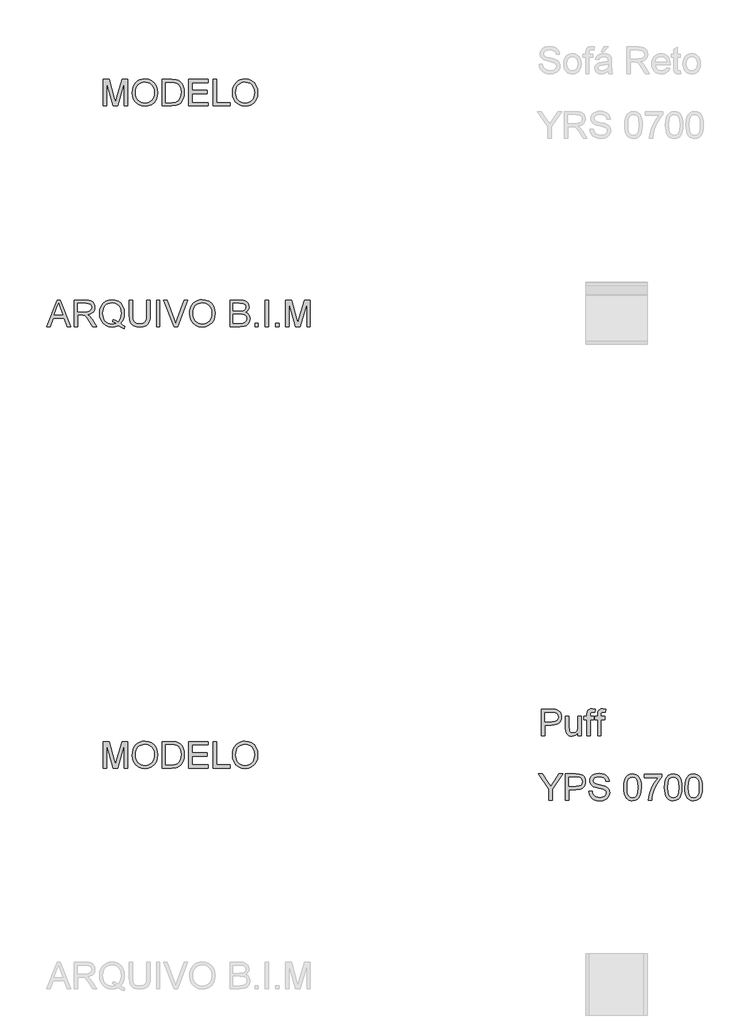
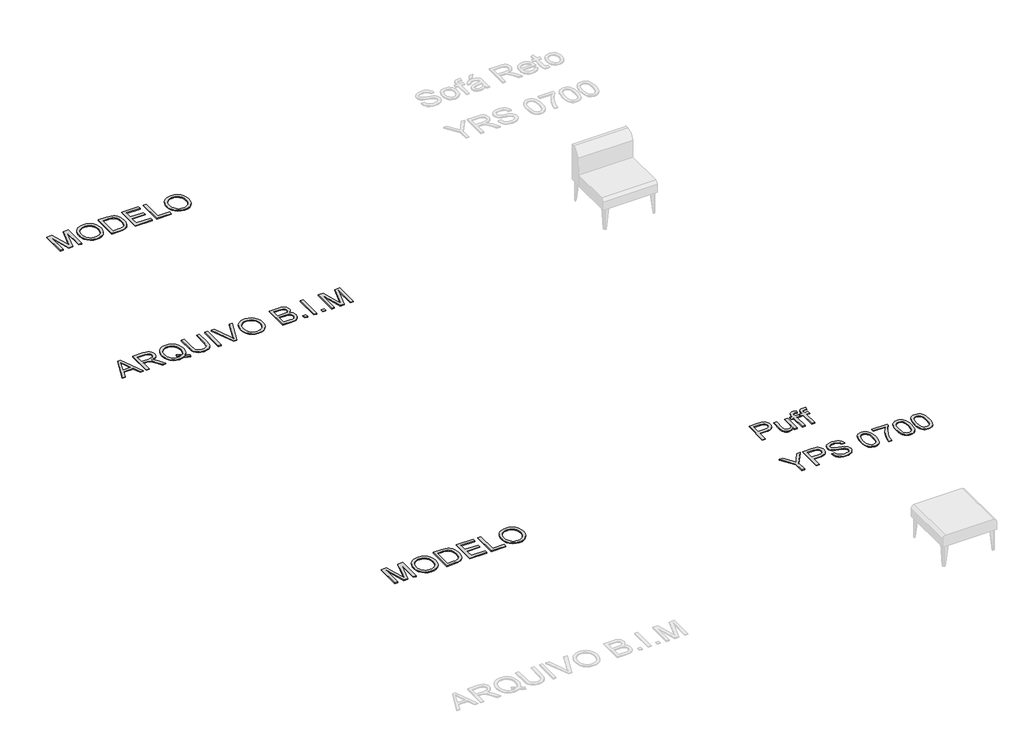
# One storey, part 8 of 26: 4 proxies.
"""IFC4 building model written with IfcOpenShell, lengths in millimetres."""

from ifc_helpers import new_model, si_unit, origin, origin_with_axes, place, context, project, spatial, polyline, outline, extrude, element, save

model = new_model("IFC4")

# Units and contexts
model_context = context("Model", 3, world=origin())
ifc_project = project(units=[si_unit("LENGTHUNIT", "METRE", prefix="MILLI")], contexts=[model_context])

# Site, building, storey
site = spatial("IfcSite", under=ifc_project)
building = spatial("IfcBuilding", under=site)
storey = spatial("IfcBuildingStorey", under=building, Name="Marelli - Linha YOUNG - Planta Baixa", Elevation=0.0)

# Proxies
placement = place(None, origin())
element("IfcBuildingElementProxy", 1, Name="300mm Arial", ObjectType="300mm Arial", at=placement, inside=storey, context=model_context, shape_type="SweptSolid", body=[
    extrude(outline(polyline([(-20609.419598, -2780.5663201), (-20489.1221856, -2479.1973896), (-20457.0428756, -2479.1973896), (-20336.7454632, -2780.5663201), (-20376.550295, -2780.5663201), (-20411.0576262, -2686.3885293), (-20535.1810114, -2686.3885293), (-20569.6147661, -2780.5663201), (-20609.419598, -2780.5663201)]), holes=[polyline([(-20521.3486483, -2648.717413), (-20424.8164128, -2648.717413), (-20451.9661041, -2574.6259792), (-20473.0825306, -2516.8685059), (-20491.8445123, -2568.1512561), (-20521.3486483, -2648.717413)])]), origin_with_axes(), (0.0, 0.0, 1.0), 10.0),
    extrude(outline(polyline([(-20296.4991729, -2780.5663201), (-20296.4991729, -2479.1973896), (-20166.6368286, -2479.1973896), (-20131.7340243, -2481.2299376), (-20106.3409696, -2487.3275817), (-20087.7813229, -2498.5847708), (-20073.3787428, -2516.0959537), (-20064.1357077, -2537.8101885), (-20061.054696, -2561.6765329), (-20066.1590587, -2591.3646099), (-20081.4721467, -2615.9759154), (-20093.0719259, -2626.0052983), (-20107.4538126, -2634.0205273), (-20144.5639089, -2644.0085235), (-20123.1531768, -2660.1217548), (-20092.6189712, -2698.8965171), (-20042.3662906, -2780.5663201), (-20086.144248, -2780.5663201), (-20125.3604687, -2718.0999573), (-20153.6873824, -2676.750021), (-20173.5897983, -2657.2154871), (-20191.5056515, -2650.0417882), (-20213.357842, -2648.717413), (-20258.8280566, -2648.717413), (-20258.8280566, -2780.5663201), (-20296.4991729, -2780.5663201)]), holes=[polyline([(-20258.8280566, -2611.0462967), (-20174.5095033, -2611.0462967), (-20150.293671, -2609.7127245), (-20131.5040981, -2605.7120078), (-20117.3590353, -2598.7774322), (-20107.0767336, -2588.6422832), (-20100.8135426, -2576.3826157), (-20098.7258123, -2563.0744845), (-20102.7081349, -2544.6987789), (-20114.6551027, -2529.8915286), (-20135.2105092, -2520.1242616), (-20165.0181478, -2516.8685059), (-20258.8280566, -2516.8685059), (-20258.8280566, -2611.0462967)])]), origin_with_axes(), (0.0, 0.0, 1.0), 10.0),
    extrude(outline(polyline([(-19768.7356626, -2744.4403081), (-19744.4002686, -2763.036743), (-19722.0146492, -2775.8574305), (-19732.1681923, -2803.4485802), (-19763.2358268, -2789.0460001), (-19794.1930967, -2768.205485), (-19829.0499157, -2781.0077785), (-19867.4016137, -2785.2752096), (-19905.9372527, -2780.3547879), (-19940.7572836, -2765.5935229), (-19969.9211287, -2741.9203165), (-19991.4882107, -2710.2640708), (-20004.814736, -2672.3630282), (-20009.2569111, -2629.9554312), (-20004.823933, -2587.511046), (-19991.5249989, -2549.0581805), (-19970.0406904, -2516.9512794), (-19941.0515892, -2493.5447874), (-19906.360317, -2479.2525719), (-19867.7694957, -2474.4885001), (-19828.8751718, -2479.3629365), (-19794.0091557, -2493.9862458), (-19765.0660397, -2517.3835407), (-19743.9404161, -2548.5799339), (-19731.0277581, -2585.9199564), (-19726.7235388, -2627.7481393), (-19729.3355009, -2662.5313819), (-19737.1713874, -2693.5990164), (-19750.2863806, -2720.9142546), (-19768.7356626, -2744.4403081)]), holes=[polyline([(-19857.0273415, -2694.3347804), (-19825.3527017, -2706.3093393), (-19799.784903, -2722.9559996), (-19784.3016695, -2705.4816049), (-19773.2422171, -2684.1076609), (-19766.6065456, -2658.8341679), (-19764.3946551, -2629.6611256), (-19767.521652, -2596.5057608), (-19776.9026429, -2567.8201623), (-19792.3077015, -2544.3308969), (-19813.5069014, -2526.7645316), (-19839.065503, -2515.8108452), (-19867.5487665, -2512.1596164), (-19889.033075, -2514.0059242), (-19908.6043972, -2519.5448474), (-19926.2627329, -2528.7763863), (-19942.0080823, -2541.7005406), (-19954.9483315, -2558.2897193), (-19964.1913666, -2578.5163313), (-19969.7371877, -2602.3803764), (-19971.5857948, -2629.8818548), (-19969.7578811, -2656.6659634), (-19964.2741401, -2680.1437324), (-19955.1345718, -2700.3151621), (-19942.3391761, -2717.1802523), (-19926.7018921, -2730.4906827), (-19909.0366585, -2739.998133), (-19889.3434755, -2745.7026032), (-19867.6223429, -2747.6040933), (-19846.7082515, -2745.6727128), (-19827.081747, -2739.8785714), (-19846.3771577, -2729.853787), (-19866.7394261, -2723.1767288), (-19857.0273415, -2694.3347804)])]), origin_with_axes(), (0.0, 0.0, 1.0), 10.0),
    extrude(outline(polyline([(-19472.4435037, -2479.1973896), (-19434.7723874, -2479.1973896), (-19434.7723874, -2653.0584205), (-19437.3291673, -2693.7737604), (-19444.9995069, -2725.1265034), (-19459.3285106, -2749.3147446), (-19481.8612828, -2768.5365788), (-19512.6530058, -2781.0905519), (-19551.7588619, -2785.2752096), (-19590.0093923, -2781.6331779), (-19620.5895832, -2770.7070826), (-19643.5086315, -2752.8740029), (-19658.7757343, -2728.5110178), (-19667.3565818, -2695.8338995), (-19670.2168643, -2653.0584205), (-19670.2168643, -2479.1973896), (-19632.545748, -2479.1973896), (-19632.545748, -2651.7340454), (-19630.6879439, -2685.588386), (-19625.1145317, -2709.1604248), (-19615.0161709, -2725.4851883), (-19599.5835212, -2737.597703), (-19579.4603761, -2745.1024957), (-19555.290529, -2747.6040933), (-19516.9756192, -2742.6560805), (-19502.6328199, -2736.4710644), (-19491.499791, -2727.812042), (-19483.1626653, -2715.6351479), (-19477.2075755, -2698.8965171), (-19472.4435037, -2651.7340454), (-19472.4435037, -2479.1973896)])), origin_with_axes(), (0.0, 0.0, 1.0), 10.0),
    extrude(outline(polyline([(-19364.1390443, -2780.5663201), (-19364.1390443, -2479.1973896), (-19326.467928, -2479.1973896), (-19326.467928, -2780.5663201), (-19364.1390443, -2780.5663201)])), origin_with_axes(), (0.0, 0.0, 1.0), 10.0),
    extrude(outline(polyline([(-19162.0982526, -2780.5663201), (-19282.027783, -2479.1973896), (-19241.7079163, -2479.1973896), (-19161.436065, -2696.3213432), (-19145.1756808, -2745.2496485), (-19129.1360258, -2696.3213432), (-19048.6434453, -2479.1973896), (-19008.3235786, -2479.1973896), (-19123.1763375, -2780.5663201), (-19162.0982526, -2780.5663201)])), origin_with_axes(), (0.0, 0.0, 1.0), 10.0),
    extrude(outline(polyline([(-18987.4278813, -2633.8549804), (-18984.9170866, -2598.5061192), (-18977.3847028, -2567.213157), (-18964.8307297, -2539.9760937), (-18947.2551674, -2516.7949295), (-18925.711078, -2498.2858666), (-18901.2515239, -2485.0651074), (-18873.8765049, -2477.1326519), (-18843.5860211, -2474.4885001), (-18804.0571008, -2479.454907), (-18768.6116705, -2494.3541278), (-18739.1811109, -2518.1376988), (-18717.6968024, -2549.7571563), (-18704.5634152, -2587.68579), (-18700.1856194, -2630.3968896), (-18704.7933414, -2673.6782064), (-18718.6165074, -2712.140269), (-18740.8917622, -2743.8149087), (-18770.8557507, -2766.733957), (-18805.9976783, -2780.6398965), (-18843.8067503, -2785.2752096), (-18883.942676, -2780.1524528), (-18919.5904413, -2764.7841825), (-18948.9474246, -2740.5591531), (-18970.2110039, -2708.8661192), (-18983.1236619, -2672.3998164), (-18987.4278813, -2633.8549804)]), holes=[polyline([(-18949.7567649, -2634.2228624), (-18947.873669, -2659.1974513), (-18942.2243811, -2681.3669401), (-18932.8089013, -2700.7313286), (-18919.6272295, -2717.2906169), (-18903.6036694, -2730.5527628), (-18885.6625243, -2740.0257242), (-18865.8037944, -2745.709501), (-18844.0274795, -2747.6040933), (-18821.8786842, -2745.6911069), (-18801.7854294, -2739.9521478), (-18783.7477154, -2730.3872159), (-18767.7655419, -2716.9963113), (-18754.6804392, -2700.0875351), (-18745.3339373, -2679.9689885), (-18739.7260361, -2656.6406715), (-18737.8567357, -2630.102584), (-18741.0573091, -2596.7540812), (-18750.6590292, -2567.9305269), (-18766.4135756, -2544.358488), (-18788.0726281, -2526.7645316), (-18814.2014468, -2515.8108452), (-18843.3652919, -2512.1596164), (-18864.3851494, -2513.9185522), (-18883.8874937, -2519.1953595), (-18901.8723248, -2527.9900385), (-18918.3396426, -2540.302589), (-18932.0846336, -2556.7262208), (-18941.9024844, -2577.8541437), (-18947.7931948, -2603.6863575), (-18949.7567649, -2634.2228624)])]), origin_with_axes(), (0.0, 0.0, 1.0), 10.0),
    extrude(outline(polyline([(-18530.665596, -2780.5663201), (-18530.665596, -2479.1973896), (-18415.6656844, -2479.1973896), (-18384.0370298, -2481.4138786), (-18359.3429509, -2488.0633457), (-18340.4154222, -2499.3113377), (-18326.0864185, -2515.3234015), (-18317.0641126, -2534.1589597), (-18314.0566773, -2553.8774346), (-18316.585866, -2572.0232141), (-18324.1734321, -2589.0837416), (-18336.874558, -2604.0105535), (-18354.7444259, -2615.7551862), (-18333.3980732, -2626.9020107), (-18317.6251326, -2643.8613707), (-18307.8854568, -2665.5112261), (-18304.6388982, -2690.7295368), (-18306.8553872, -2711.7447958), (-18313.5048543, -2731.2333445), (-18323.4284711, -2747.8064284), (-18335.4674094, -2760.0752929), (-18350.2102804, -2768.9596431), (-18368.2456952, -2775.3791839), (-18416.5486011, -2780.5663201), (-18530.665596, -2780.5663201)]), holes=[polyline([(-18492.9944797, -2601.6285176), (-18424.2005466, -2601.6285176), (-18384.0278328, -2598.3911561), (-18369.9655435, -2592.8085468), (-18359.8579857, -2584.4484284), (-18353.7603416, -2573.4395597), (-18351.7277936, -2559.9106994), (-18353.6223859, -2546.7773121), (-18359.3061627, -2535.3361821), (-18368.5216067, -2526.4058467), (-18381.0112004, -2520.8048433), (-18429.424471, -2516.8685059), (-18492.9944797, -2516.8685059), (-18492.9944797, -2601.6285176)]), polyline([(-18492.9944797, -2742.8952038), (-18415.7392607, -2742.8952038), (-18387.7802291, -2741.4236758), (-18364.1254168, -2733.2199073), (-18348.4536438, -2716.4812765), (-18343.8459218, -2704.6538704), (-18342.3100145, -2691.0974188), (-18344.1126363, -2675.3520694), (-18349.5205016, -2661.814012), (-18358.9658718, -2651.2282076), (-18372.8810083, -2644.3396173), (-18392.5902862, -2640.5596298), (-18419.4180807, -2639.2996339), (-18492.9944797, -2639.2996339), (-18492.9944797, -2742.8952038)])]), origin_with_axes(), (0.0, 0.0, 1.0), 10.0),
    extrude(outline(polyline([(-18248.1322237, -2780.5663201), (-18248.1322237, -2742.8952038), (-18210.4611074, -2742.8952038), (-18210.4611074, -2780.5663201), (-18248.1322237, -2780.5663201)])), origin_with_axes(), (0.0, 0.0, 1.0), 10.0),
    extrude(outline(polyline([(-18130.4099853, -2780.5663201), (-18130.4099853, -2479.1973896), (-18092.738869, -2479.1973896), (-18092.738869, -2780.5663201), (-18130.4099853, -2780.5663201)])), origin_with_axes(), (0.0, 0.0, 1.0), 10.0),
    extrude(outline(polyline([(-18012.6877468, -2780.5663201), (-18012.6877468, -2742.8952038), (-17975.0166305, -2742.8952038), (-17975.0166305, -2780.5663201), (-18012.6877468, -2780.5663201)])), origin_with_axes(), (0.0, 0.0, 1.0), 10.0),
    extrude(outline(polyline([(-17899.6743979, -2780.5663201), (-17899.6743979, -2479.1973896), (-17834.8535904, -2479.1973896), (-17773.196568, -2691.6124536), (-17760.7621565, -2735.9790223), (-17747.2976755, -2687.9336337), (-17686.6707227, -2479.1973896), (-17621.8499152, -2479.1973896), (-17621.8499152, -2780.5663201), (-17659.5210315, -2780.5663201), (-17659.5210315, -2516.8685059), (-17735.2311461, -2780.5663201), (-17786.293167, -2780.5663201), (-17862.0032816, -2516.8685059), (-17862.0032816, -2780.5663201), (-17899.6743979, -2780.5663201)])), origin_with_axes(), (0.0, 0.0, 1.0), 10.0),
])
element("IfcBuildingElementProxy", 2, Name="300mm Arial", ObjectType="300mm Arial", at=placement, inside=storey, context=model_context, shape_type="SweptSolid", body=[
    extrude(outline(polyline([(-19966.8769052, -280.5663201), (-19966.8769052, 20.8026104), (-19902.0560977, 20.8026104), (-19840.3990753, -191.6124536), (-19827.9646638, -235.9790223), (-19814.5001828, -187.9336337), (-19753.87323, 20.8026104), (-19689.0524225, 20.8026104), (-19689.0524225, -280.5663201), (-19726.7235388, -280.5663201), (-19726.7235388, -16.8685059), (-19802.4336534, -280.5663201), (-19853.4956743, -280.5663201), (-19929.2057889, -16.8685059), (-19929.2057889, -280.5663201), (-19966.8769052, -280.5663201)])), origin_with_axes(), (0.0, 0.0, 1.0), 10.0),
    extrude(outline(polyline([(-19637.2546375, -133.8549804), (-19634.7438429, -98.5061192), (-19627.2114591, -67.213157), (-19614.657486, -39.9760937), (-19597.0819237, -16.7949295), (-19575.5378343, 1.7141334), (-19551.0782802, 14.9348926), (-19523.7032612, 22.8673481), (-19493.4127774, 25.5114999), (-19453.883857, 20.545093), (-19418.4384268, 5.6458722), (-19389.0078672, -18.1376988), (-19367.5235587, -49.7571563), (-19354.3901714, -87.68579), (-19350.0123757, -130.3968896), (-19354.6200977, -173.6782064), (-19368.4432637, -212.140269), (-19390.7185185, -243.8149087), (-19420.682507, -266.733957), (-19455.8244346, -280.6398965), (-19493.6335066, -285.2752096), (-19533.7694323, -280.1524528), (-19569.4171976, -264.7841825), (-19598.7741808, -240.5591531), (-19620.0377602, -208.8661192), (-19632.9504182, -172.3998164), (-19637.2546375, -133.8549804)]), holes=[polyline([(-19599.5835212, -134.2228624), (-19597.7004253, -159.1974513), (-19592.0511374, -181.3669401), (-19582.6356576, -200.7313286), (-19569.4539858, -217.2906169), (-19553.4304257, -230.5527628), (-19535.4892806, -240.0257242), (-19515.6305507, -245.709501), (-19493.8542358, -247.6040933), (-19471.7054404, -245.6911069), (-19451.6121857, -239.9521478), (-19433.5744716, -230.3872159), (-19417.5922982, -216.9963113), (-19404.5071955, -200.0875351), (-19395.1606936, -179.9689885), (-19389.5527924, -156.6406715), (-19387.683492, -130.102584), (-19390.8840654, -96.7540812), (-19400.4857854, -67.9305269), (-19416.2403319, -44.358488), (-19437.8993843, -26.7645316), (-19464.0282031, -15.8108452), (-19493.1920482, -12.1596164), (-19514.2119057, -13.9185522), (-19533.71425, -19.1953595), (-19551.699081, -27.9900385), (-19568.1663988, -40.302589), (-19581.9113899, -56.7262208), (-19591.7292406, -77.8541437), (-19597.6199511, -103.6863575), (-19599.5835212, -134.2228624)])]), origin_with_axes(), (0.0, 0.0, 1.0), 10.0),
    extrude(outline(polyline([(-19298.2145908, -280.5663201), (-19298.2145908, 20.8026104), (-19194.2511389, 20.8026104), (-19140.4667912, 16.4616028), (-19116.444097, 8.0922874), (-19096.173799, -5.0962821), (-19075.333284, -28.0521186), (-19060.4892455, -56.5997614), (-19051.6048953, -90.1873876), (-19048.6434453, -128.2631741), (-19050.6484021, -160.6091985), (-19056.6632727, -189.0740679), (-19065.8235344, -213.3082943), (-19077.2646645, -232.9623899), (-19090.4348399, -248.477813), (-19104.7822377, -260.2960221), (-19121.254154, -269.0608107), (-19140.797885, -275.4159721), (-19189.2479438, -280.5663201), (-19298.2145908, -280.5663201)]), holes=[polyline([(-19260.5434745, -242.8952038), (-19193.8832569, -242.8952038), (-19166.3105014, -241.5340404), (-19145.39641, -237.4505502), (-19129.6142724, -230.8838566), (-19117.4373783, -222.0730828), (-19104.3499764, -205.7667134), (-19094.5183301, -184.6594839), (-19088.3655037, -158.6594239), (-19086.3145616, -127.6745629), (-19090.3336724, -86.6189322), (-19102.3910047, -56.3054558), (-19120.2056904, -35.4833349), (-19141.4968608, -22.9017706), (-19163.1651104, -18.3768221), (-19194.9133265, -16.8685059), (-19260.5434745, -16.8685059), (-19260.5434745, -242.8952038)])]), origin_with_axes(), (0.0, 0.0, 1.0), 10.0),
    extrude(outline(polyline([(-18996.8456603, -280.5663201), (-18996.8456603, 20.8026104), (-18780.2367416, 20.8026104), (-18780.2367416, -16.8685059), (-18959.174544, -16.8685059), (-18959.174544, -106.3374072), (-18789.6545206, -106.3374072), (-18789.6545206, -144.0085235), (-18959.174544, -144.0085235), (-18959.174544, -242.8952038), (-18775.527852, -242.8952038), (-18775.527852, -280.5663201), (-18996.8456603, -280.5663201)])), origin_with_axes(), (0.0, 0.0, 1.0), 10.0),
    extrude(outline(polyline([(-18719.0211776, -280.5663201), (-18719.0211776, 20.8026104), (-18681.3500613, 20.8026104), (-18681.3500613, -242.8952038), (-18530.665596, -242.8952038), (-18530.665596, -280.5663201), (-18719.0211776, -280.5663201)])), origin_with_axes(), (0.0, 0.0, 1.0), 10.0),
    extrude(outline(polyline([(-18502.4122588, -133.8549804), (-18499.9014642, -98.5061192), (-18492.3690803, -67.213157), (-18479.8151073, -39.9760937), (-18462.2395449, -16.7949295), (-18440.6954556, 1.7141334), (-18416.2359014, 14.9348926), (-18388.8608825, 22.8673481), (-18358.5703987, 25.5114999), (-18319.0414783, 20.545093), (-18283.5960481, 5.6458722), (-18254.1654885, -18.1376988), (-18232.6811799, -49.7571563), (-18219.5477927, -87.68579), (-18215.169997, -130.3968896), (-18219.777719, -173.6782064), (-18233.6008849, -212.140269), (-18255.8761397, -243.8149087), (-18285.8401283, -266.733957), (-18320.9820558, -280.6398965), (-18358.7911279, -285.2752096), (-18398.9270536, -280.1524528), (-18434.5748189, -264.7841825), (-18463.9318021, -240.5591531), (-18485.1953814, -208.8661192), (-18498.1080395, -172.3998164), (-18502.4122588, -133.8549804)]), holes=[polyline([(-18464.7411425, -134.2228624), (-18462.8580465, -159.1974513), (-18457.2087587, -181.3669401), (-18447.7932788, -200.7313286), (-18434.6116071, -217.2906169), (-18418.5880469, -230.5527628), (-18400.6469019, -240.0257242), (-18380.7881719, -245.709501), (-18359.0118571, -247.6040933), (-18336.8630617, -245.6911069), (-18316.769807, -239.9521478), (-18298.7320929, -230.3872159), (-18282.7499195, -216.9963113), (-18269.6648168, -200.0875351), (-18260.3183148, -179.9689885), (-18254.7104137, -156.6406715), (-18252.8411133, -130.102584), (-18256.0416866, -96.7540812), (-18265.6434067, -67.9305269), (-18281.3979532, -44.358488), (-18303.0570056, -26.7645316), (-18329.1858243, -15.8108452), (-18358.3496695, -12.1596164), (-18379.369527, -13.9185522), (-18398.8718713, -19.1953595), (-18416.8567023, -27.9900385), (-18433.3240201, -40.302589), (-18447.0690112, -56.7262208), (-18456.8868619, -77.8541437), (-18462.7775724, -103.6863575), (-18464.7411425, -134.2228624)])]), origin_with_axes(), (0.0, 0.0, 1.0), 10.0),
])
element("IfcBuildingElementProxy", 3, Name="300mm Arial", ObjectType="300mm Arial", at=placement, inside=storey, context=model_context, shape_type="SweptSolid", body=[
    extrude(outline(polyline([(-19966.8769052, -7780.5663201), (-19966.8769052, -7479.1973896), (-19902.0560977, -7479.1973896), (-19840.3990753, -7691.6124536), (-19827.9646638, -7735.9790223), (-19814.5001828, -7687.9336337), (-19753.87323, -7479.1973896), (-19689.0524225, -7479.1973896), (-19689.0524225, -7780.5663201), (-19726.7235388, -7780.5663201), (-19726.7235388, -7516.8685059), (-19802.4336534, -7780.5663201), (-19853.4956743, -7780.5663201), (-19929.2057889, -7516.8685059), (-19929.2057889, -7780.5663201), (-19966.8769052, -7780.5663201)])), origin_with_axes(), (0.0, 0.0, 1.0), 10.0),
    extrude(outline(polyline([(-19637.2546375, -7633.8549804), (-19634.7438429, -7598.5061192), (-19627.2114591, -7567.213157), (-19614.657486, -7539.9760937), (-19597.0819237, -7516.7949295), (-19575.5378343, -7498.2858666), (-19551.0782802, -7485.0651074), (-19523.7032612, -7477.1326519), (-19493.4127774, -7474.4885001), (-19453.883857, -7479.454907), (-19418.4384268, -7494.3541278), (-19389.0078672, -7518.1376988), (-19367.5235587, -7549.7571563), (-19354.3901714, -7587.68579), (-19350.0123757, -7630.3968896), (-19354.6200977, -7673.6782064), (-19368.4432637, -7712.140269), (-19390.7185185, -7743.8149087), (-19420.682507, -7766.733957), (-19455.8244346, -7780.6398965), (-19493.6335066, -7785.2752096), (-19533.7694323, -7780.1524528), (-19569.4171976, -7764.7841825), (-19598.7741808, -7740.5591531), (-19620.0377602, -7708.8661192), (-19632.9504182, -7672.3998164), (-19637.2546375, -7633.8549804)]), holes=[polyline([(-19599.5835212, -7634.2228624), (-19597.7004253, -7659.1974513), (-19592.0511374, -7681.3669401), (-19582.6356576, -7700.7313286), (-19569.4539858, -7717.2906169), (-19553.4304257, -7730.5527628), (-19535.4892806, -7740.0257242), (-19515.6305507, -7745.709501), (-19493.8542358, -7747.6040933), (-19471.7054404, -7745.6911069), (-19451.6121857, -7739.9521478), (-19433.5744716, -7730.3872159), (-19417.5922982, -7716.9963113), (-19404.5071955, -7700.0875351), (-19395.1606936, -7679.9689885), (-19389.5527924, -7656.6406715), (-19387.683492, -7630.102584), (-19390.8840654, -7596.7540812), (-19400.4857854, -7567.9305269), (-19416.2403319, -7544.358488), (-19437.8993843, -7526.7645316), (-19464.0282031, -7515.8108452), (-19493.1920482, -7512.1596164), (-19514.2119057, -7513.9185522), (-19533.71425, -7519.1953595), (-19551.699081, -7527.9900385), (-19568.1663988, -7540.302589), (-19581.9113899, -7556.7262208), (-19591.7292406, -7577.8541437), (-19597.6199511, -7603.6863575), (-19599.5835212, -7634.2228624)])]), origin_with_axes(), (0.0, 0.0, 1.0), 10.0),
    extrude(outline(polyline([(-19298.2145908, -7780.5663201), (-19298.2145908, -7479.1973896), (-19194.2511389, -7479.1973896), (-19140.4667912, -7483.5383972), (-19116.444097, -7491.9077126), (-19096.173799, -7505.0962821), (-19075.333284, -7528.0521186), (-19060.4892455, -7556.5997614), (-19051.6048953, -7590.1873876), (-19048.6434453, -7628.2631741), (-19050.6484021, -7660.6091985), (-19056.6632727, -7689.0740679), (-19065.8235344, -7713.3082943), (-19077.2646645, -7732.9623899), (-19090.4348399, -7748.477813), (-19104.7822377, -7760.2960221), (-19121.254154, -7769.0608107), (-19140.797885, -7775.4159721), (-19189.2479438, -7780.5663201), (-19298.2145908, -7780.5663201)]), holes=[polyline([(-19260.5434745, -7742.8952038), (-19193.8832569, -7742.8952038), (-19166.3105014, -7741.5340404), (-19145.39641, -7737.4505502), (-19129.6142724, -7730.8838566), (-19117.4373783, -7722.0730828), (-19104.3499764, -7705.7667134), (-19094.5183301, -7684.6594839), (-19088.3655037, -7658.6594239), (-19086.3145616, -7627.6745629), (-19090.3336724, -7586.6189322), (-19102.3910047, -7556.3054558), (-19120.2056904, -7535.4833349), (-19141.4968608, -7522.9017706), (-19163.1651104, -7518.3768221), (-19194.9133265, -7516.8685059), (-19260.5434745, -7516.8685059), (-19260.5434745, -7742.8952038)])]), origin_with_axes(), (0.0, 0.0, 1.0), 10.0),
    extrude(outline(polyline([(-18996.8456603, -7780.5663201), (-18996.8456603, -7479.1973896), (-18780.2367416, -7479.1973896), (-18780.2367416, -7516.8685059), (-18959.174544, -7516.8685059), (-18959.174544, -7606.3374072), (-18789.6545206, -7606.3374072), (-18789.6545206, -7644.0085235), (-18959.174544, -7644.0085235), (-18959.174544, -7742.8952038), (-18775.527852, -7742.8952038), (-18775.527852, -7780.5663201), (-18996.8456603, -7780.5663201)])), origin_with_axes(), (0.0, 0.0, 1.0), 10.0),
    extrude(outline(polyline([(-18719.0211776, -7780.5663201), (-18719.0211776, -7479.1973896), (-18681.3500613, -7479.1973896), (-18681.3500613, -7742.8952038), (-18530.665596, -7742.8952038), (-18530.665596, -7780.5663201), (-18719.0211776, -7780.5663201)])), origin_with_axes(), (0.0, 0.0, 1.0), 10.0),
    extrude(outline(polyline([(-18502.4122588, -7633.8549804), (-18499.9014642, -7598.5061192), (-18492.3690803, -7567.213157), (-18479.8151073, -7539.9760937), (-18462.2395449, -7516.7949295), (-18440.6954556, -7498.2858666), (-18416.2359014, -7485.0651074), (-18388.8608825, -7477.1326519), (-18358.5703987, -7474.4885001), (-18319.0414783, -7479.454907), (-18283.5960481, -7494.3541278), (-18254.1654885, -7518.1376988), (-18232.6811799, -7549.7571563), (-18219.5477927, -7587.68579), (-18215.169997, -7630.3968896), (-18219.777719, -7673.6782064), (-18233.6008849, -7712.140269), (-18255.8761397, -7743.8149087), (-18285.8401283, -7766.733957), (-18320.9820558, -7780.6398965), (-18358.7911279, -7785.2752096), (-18398.9270536, -7780.1524528), (-18434.5748189, -7764.7841825), (-18463.9318021, -7740.5591531), (-18485.1953814, -7708.8661192), (-18498.1080395, -7672.3998164), (-18502.4122588, -7633.8549804)]), holes=[polyline([(-18464.7411425, -7634.2228624), (-18462.8580465, -7659.1974513), (-18457.2087587, -7681.3669401), (-18447.7932788, -7700.7313286), (-18434.6116071, -7717.2906169), (-18418.5880469, -7730.5527628), (-18400.6469019, -7740.0257242), (-18380.7881719, -7745.709501), (-18359.0118571, -7747.6040933), (-18336.8630617, -7745.6911069), (-18316.769807, -7739.9521478), (-18298.7320929, -7730.3872159), (-18282.7499195, -7716.9963113), (-18269.6648168, -7700.0875351), (-18260.3183148, -7679.9689885), (-18254.7104137, -7656.6406715), (-18252.8411133, -7630.102584), (-18256.0416866, -7596.7540812), (-18265.6434067, -7567.9305269), (-18281.3979532, -7544.358488), (-18303.0570056, -7526.7645316), (-18329.1858243, -7515.8108452), (-18358.3496695, -7512.1596164), (-18379.369527, -7513.9185522), (-18398.8718713, -7519.1953595), (-18416.8567023, -7527.9900385), (-18433.3240201, -7540.302589), (-18447.0690112, -7556.7262208), (-18456.8868619, -7577.8541437), (-18462.7775724, -7603.6863575), (-18464.7411425, -7634.2228624)])]), origin_with_axes(), (0.0, 0.0, 1.0), 10.0),
])
element("IfcBuildingElementProxy", 4, Name="300mm Arial", ObjectType="300mm Arial", at=placement, inside=storey, context=model_context, shape_type="SweptSolid", body=[
    extrude(outline(polyline([(-14999.839132, -7414.6418665), (-14999.839132, -7113.2729361), (-14888.1501582, -7113.2729361), (-14843.121402, -7116.1424156), (-14823.0442421, -7121.5042957), (-14806.5171435, -7130.2322961), (-14793.2090123, -7142.7218898), (-14782.7887548, -7159.3685501), (-14776.0565143, -7179.0042516), (-14773.8124341, -7200.4609689), (-14775.3276481, -7218.9608348), (-14779.87329, -7235.9799756), (-14787.4493599, -7251.5183913), (-14798.0558576, -7265.5760821), (-14812.6170868, -7277.2287443), (-14832.057351, -7285.5520744), (-14856.3766502, -7290.5460725), (-14885.5749843, -7292.2107385), (-14962.1680157, -7292.2107385), (-14962.1680157, -7414.6418665), (-14999.839132, -7414.6418665)]), holes=[polyline([(-14962.1680157, -7254.5396222), (-14883.3676923, -7254.5396222), (-14849.9640071, -7251.0815315), (-14827.8910874, -7240.7072592), (-14815.5854347, -7224.0605989), (-14811.4835504, -7201.7853441), (-14813.9023746, -7184.8627723), (-14821.1588469, -7170.5889509), (-14832.3516566, -7159.8467967), (-14846.5794928, -7153.5192264), (-14884.2506091, -7150.9440524), (-14962.1680157, -7150.9440524), (-14962.1680157, -7254.5396222)])]), origin_with_axes(), (0.0, 0.0, 1.0), 10.0),
    extrude(outline(polyline([(-14585.4568526, -7414.6418665), (-14585.4568526, -7376.6028682), (-14599.0868805, -7395.3050692), (-14614.9609886, -7408.6637841), (-14633.0791769, -7416.6790131), (-14653.4414453, -7419.3507561), (-14671.7895598, -7417.4745579), (-14688.8684815, -7411.8459634), (-14703.1974852, -7403.3846775), (-14713.2958459, -7393.0104052), (-14724.5162468, -7365.2721028), (-14726.7235388, -7330.2497368), (-14726.7235388, -7193.3240582), (-14689.0524225, -7193.3240582), (-14689.0524225, -7312.5178247), (-14686.7715541, -7350.924705), (-14681.2809153, -7363.7361954), (-14671.8723333, -7373.4758713), (-14659.1712074, -7379.6286976), (-14643.802937, -7381.6796398), (-14627.5517499, -7379.5827124), (-14612.3490265, -7373.2919303), (-14599.8134475, -7363.3867076), (-14591.5636937, -7350.4464584), (-14586.9835629, -7332.7237433), (-14585.4568526, -7308.4711227), (-14585.4568526, -7193.3240582), (-14547.7857363, -7193.3240582), (-14547.7857363, -7414.6418665), (-14585.4568526, -7414.6418665)])), origin_with_axes(), (0.0, 0.0, 1.0), 10.0),
    extrude(outline(polyline([(-14364.1390443, -7414.6418665), (-14364.1390443, -7230.9951745), (-14397.1012711, -7230.9951745), (-14397.1012711, -7193.3240582), (-14364.1390443, -7193.3240582), (-14364.1390443, -7171.0304093), (-14360.1659188, -7139.6132869), (-14352.5875497, -7127.086905), (-14340.8889022, -7117.1724852), (-14324.5181534, -7110.7161562), (-14302.9234803, -7108.5640465), (-14268.563302, -7112.6843249), (-14274.0815319, -7148.0009964), (-14295.7865696, -7146.2351629), (-14310.1063763, -7147.7986613), (-14319.5149583, -7152.4891568), (-14324.7296856, -7161.4470834), (-14326.467928, -7175.8128753), (-14326.467928, -7193.3240582), (-14284.0879222, -7193.3240582), (-14284.0879222, -7230.9951745), (-14326.467928, -7230.9951745), (-14326.467928, -7414.6418665), (-14364.1390443, -7414.6418665)])), origin_with_axes(), (0.0, 0.0, 1.0), 10.0),
    extrude(outline(polyline([(-14486.5701723, -7414.6418665), (-14486.5701723, -7230.9951745), (-14519.5323991, -7230.9951745), (-14519.5323991, -7193.3240582), (-14486.5701723, -7193.3240582), (-14486.5701723, -7171.0304093), (-14482.5970468, -7139.6132869), (-14475.0186777, -7127.086905), (-14463.3200302, -7117.1724852), (-14446.9492814, -7110.7161562), (-14425.3546083, -7108.5640465), (-14390.99443, -7112.6843249), (-14396.5126599, -7148.0009964), (-14418.2176976, -7146.2351629), (-14432.5375043, -7147.7986613), (-14441.9460863, -7152.4891568), (-14447.1608136, -7161.4470834), (-14448.899056, -7175.8128753), (-14448.899056, -7193.3240582), (-14406.5190502, -7193.3240582), (-14406.5190502, -7230.9951745), (-14448.899056, -7230.9951745), (-14448.899056, -7414.6418665), (-14486.5701723, -7414.6418665)])), origin_with_axes(), (0.0, 0.0, 1.0), 10.0),
    extrude(outline(polyline([(-14915.0791203, -8146.4907736), (-14915.0791203, -8018.8357213), (-15032.8013587, -7845.1218432), (-14988.3612137, -7845.1218432), (-14925.526969, -7937.9016823), (-14893.3740826, -7985.2113069), (-14861.1476198, -7934.517168), (-14804.1259105, -7845.1218432), (-14759.6857655, -7845.1218432), (-14877.408004, -8018.8357213), (-14877.408004, -8146.4907736), (-14915.0791203, -8146.4907736)])), origin_with_axes(), (0.0, 0.0, 1.0), 10.0),
    extrude(outline(polyline([(-14726.7235388, -8146.4907736), (-14726.7235388, -7845.1218432), (-14615.034565, -7845.1218432), (-14570.0058088, -7847.9913227), (-14549.9286489, -7853.3532028), (-14533.4015503, -7862.0812031), (-14520.0934191, -7874.5707969), (-14509.6731616, -7891.2174572), (-14502.9409211, -7910.8531586), (-14500.6968409, -7932.309876), (-14502.2120549, -7950.8097418), (-14506.7576968, -7967.8288826), (-14514.3337666, -7983.3672984), (-14524.9402644, -7997.4249892), (-14539.5014936, -8009.0776514), (-14558.9417578, -8017.4009815), (-14583.261057, -8022.3949796), (-14612.4593911, -8024.0596456), (-14689.0524225, -8024.0596456), (-14689.0524225, -8146.4907736), (-14726.7235388, -8146.4907736)]), holes=[polyline([(-14689.0524225, -7986.3885293), (-14610.2520991, -7986.3885293), (-14576.8484139, -7982.9304385), (-14554.7754942, -7972.5561663), (-14542.4698415, -7955.909506), (-14538.3679572, -7933.6342512), (-14540.7867813, -7916.7116794), (-14548.0432537, -7902.437858), (-14559.2360634, -7891.6957037), (-14573.4638996, -7885.3681334), (-14611.1350159, -7882.7929595), (-14689.0524225, -7882.7929595), (-14689.0524225, -7986.3885293)])]), origin_with_axes(), (0.0, 0.0, 1.0), 10.0),
    extrude(outline(polyline([(-14463.0257246, -8042.8952038), (-14425.3546083, -8042.8952038), (-14421.0319949, -8063.8000981), (-14413.2145025, -8080.6031083), (-14401.0192143, -8093.9388306), (-14383.5632137, -8104.4418616), (-14362.2260579, -8111.2568755), (-14338.3873047, -8113.5285468), (-14317.3996368, -8111.8086985), (-14299.0239312, -8106.6491535), (-14284.1339074, -8098.4821732), (-14273.6032853, -8087.740019), (-14267.3400943, -8075.4067751), (-14265.252364, -8062.4665259), (-14266.8158625, -8049.8573705), (-14271.5063579, -8038.9588664), (-14281.0345016, -8029.660649), (-14297.1109448, -8021.8523536), (-14351.9621503, -8007.4681676), (-14387.9686006, -7997.949221), (-14411.0072105, -7988.8901269), (-14429.7599952, -7976.2165921), (-14443.0497323, -7960.8575188), (-14450.9683922, -7943.1440008), (-14453.6079455, -7923.4071317), (-14450.3429928, -7901.3434091), (-14440.5481347, -7880.7696085), (-14424.4808886, -7863.3320019), (-14402.3987718, -7850.6768613), (-14375.8928741, -7842.9789305), (-14346.5542849, -7840.4129536), (-14314.7692806, -7843.0984922), (-14286.9574017, -7851.1551079), (-14264.1119298, -7864.4172538), (-14247.2261462, -7882.7193831), (-14236.5391743, -7904.9210615), (-14232.2901372, -7929.8818548), (-14269.9612535, -7929.8818548), (-14276.8774351, -7907.4042649), (-14291.2984093, -7891.180669), (-14313.8311815, -7881.3582197), (-14345.082757, -7878.0840699), (-14377.0700964, -7881.3214315), (-14399.0142575, -7891.0335162), (-14411.7061863, -7905.3257317), (-14415.9368292, -7922.3034857), (-14412.938591, -7936.7796423), (-14403.9438762, -7948.4231074), (-14382.6802969, -7958.8341679), (-14342.4340066, -7969.4659575), (-14300.9001293, -7979.5643183), (-14275.7737891, -7988.3750921), (-14254.2986776, -8002.0419082), (-14239.3166834, -8018.9092977), (-14230.5151066, -8038.7933195), (-14227.5812477, -8061.5100327), (-14230.956565, -8084.7325837), (-14241.0825169, -8106.5755771), (-14257.5452362, -8125.3743471), (-14279.9308556, -8139.4642275), (-14306.8506206, -8148.2658042), (-14336.9157767, -8151.1996631), (-14373.8235378, -8148.035878), (-14404.2013936, -8138.5445225), (-14428.3988318, -8122.6888085), (-14446.7653404, -8100.4319478), (-14458.5559584, -8073.3190448), (-14463.0257246, -8042.8952038)])), origin_with_axes(), (0.0, 0.0, 1.0), 10.0),
    extrude(outline(polyline([(-14067.4790034, -7998.2343295), (-14064.7106914, -7949.9958029), (-14056.4057553, -7911.5245433), (-14042.6469687, -7882.2319394), (-14023.517105, -7861.5293801), (-13998.8782084, -7849.2237274), (-13968.5923231, -7845.1218432), (-13945.3789692, -7847.5498643), (-13924.5936365, -7854.8339278), (-13907.2112122, -7866.6889251), (-13894.2065837, -7882.8297477), (-13884.3841344, -7903.1184397), (-13876.5482479, -7927.4170455), (-13871.4162941, -7958.2731478), (-13869.7056428, -7998.2343295), (-13872.4463637, -8046.1969447), (-13880.6685263, -8084.5762338), (-13894.3445394, -8113.8964288), (-13913.446812, -8134.6817616), (-13938.140891, -8147.0701877), (-13968.5923231, -8151.1996631), (-13989.3408676, -8149.4062384), (-14007.7349674, -8144.0259642), (-14023.7746224, -8135.0588406), (-14037.4598326, -8122.5048675), (-14050.5932198, -8099.8111469), (-14059.9742107, -8071.5348171), (-14065.6028052, -8037.675878), (-14067.4790034, -7998.2343295)]), holes=[polyline([(-14029.8078871, -7998.1607531), (-14025.3933032, -8057.4173455), (-14019.8750732, -8077.6853442), (-14012.1495513, -8091.7131445), (-13992.4310764, -8108.0746963), (-13968.5923231, -8113.5285468), (-13944.7535698, -8108.0563022), (-13925.0350949, -8091.6395681), (-13917.309573, -8077.5887752), (-13911.791343, -8057.325375), (-13907.3767591, -7998.1607531), (-13911.6441902, -7940.237733), (-13916.9784792, -7920.0364129), (-13924.4464837, -7905.6752196), (-13944.1281704, -7888.5135245), (-13969.0337815, -7882.7929595), (-13992.6150174, -7887.8329428), (-14011.5609401, -7902.9528928), (-14019.5439794, -7918.5878776), (-14025.2461504, -7939.6675159), (-14029.8078871, -7998.1607531)])]), origin_with_axes(), (0.0, 0.0, 1.0), 10.0),
    extrude(outline(polyline([(-13836.743416, -7887.501849), (-13836.743416, -7849.8307327), (-13638.9700554, -7849.8307327), (-13638.9700554, -7880.2913619), (-13667.1590133, -7915.9667184), (-13695.0720597, -7961.3357654), (-13719.6925622, -8012.2598306), (-13738.0038885, -8064.6002415), (-13746.9802092, -8103.7612799), (-13751.9834043, -8146.4907736), (-13789.6545206, -8146.4907736), (-13785.5802276, -8107.660829), (-13774.6817234, -8061.5100327), (-13757.2533139, -8012.5909244), (-13733.5893046, -7965.4560438), (-13705.9613667, -7922.8461117), (-13676.6411717, -7887.501849), (-13836.743416, -7887.501849)])), origin_with_axes(), (0.0, 0.0, 1.0), 10.0),
    extrude(outline(polyline([(-13606.0078287, -7998.2343295), (-13603.2395166, -7949.9958029), (-13594.9345806, -7911.5245433), (-13581.175794, -7882.2319394), (-13562.0459302, -7861.5293801), (-13537.4070336, -7849.2237274), (-13507.1211484, -7845.1218432), (-13483.9077945, -7847.5498643), (-13463.1224617, -7854.8339278), (-13445.7400375, -7866.6889251), (-13432.7354089, -7882.8297477), (-13422.9129597, -7903.1184397), (-13415.0770732, -7927.4170455), (-13409.9451193, -7958.2731478), (-13408.234468, -7998.2343295), (-13410.9751889, -8046.1969447), (-13419.1973515, -8084.5762338), (-13432.8733647, -8113.8964288), (-13451.9756373, -8134.6817616), (-13476.6697162, -8147.0701877), (-13507.1211484, -8151.1996631), (-13527.8696929, -8149.4062384), (-13546.2637926, -8144.0259642), (-13562.3034476, -8135.0588406), (-13575.9886578, -8122.5048675), (-13589.1220451, -8099.8111469), (-13598.503036, -8071.5348171), (-13604.1316305, -8037.675878), (-13606.0078287, -7998.2343295)]), holes=[polyline([(-13568.3367123, -7998.1607531), (-13563.9221284, -8057.4173455), (-13558.4038985, -8077.6853442), (-13550.6783766, -8091.7131445), (-13530.9599016, -8108.0746963), (-13507.1211484, -8113.5285468), (-13483.2823951, -8108.0563022), (-13463.5639201, -8091.6395681), (-13455.8383982, -8077.5887752), (-13450.3201683, -8057.325375), (-13445.9055844, -7998.1607531), (-13450.1730155, -7940.237733), (-13455.5073044, -7920.0364129), (-13462.9753089, -7905.6752196), (-13482.6569957, -7888.5135245), (-13507.5626067, -7882.7929595), (-13531.1438426, -7887.8329428), (-13550.0897654, -7902.9528928), (-13558.0728047, -7918.5878776), (-13563.7749756, -7939.6675159), (-13568.3367123, -7998.1607531)])]), origin_with_axes(), (0.0, 0.0, 1.0), 10.0),
    extrude(outline(polyline([(-13375.2722413, -7998.2343295), (-13372.5039293, -7949.9958029), (-13364.1989932, -7911.5245433), (-13350.4402066, -7882.2319394), (-13331.3103429, -7861.5293801), (-13306.6714462, -7849.2237274), (-13276.385561, -7845.1218432), (-13253.1722071, -7847.5498643), (-13232.3868744, -7854.8339278), (-13215.0044501, -7866.6889251), (-13201.9998216, -7882.8297477), (-13192.1773723, -7903.1184397), (-13184.3414858, -7927.4170455), (-13179.209532, -7958.2731478), (-13177.4988807, -7998.2343295), (-13180.2396015, -8046.1969447), (-13188.4617641, -8084.5762338), (-13202.1377773, -8113.8964288), (-13221.2400499, -8134.6817616), (-13245.9341288, -8147.0701877), (-13276.385561, -8151.1996631), (-13297.1341055, -8149.4062384), (-13315.5282053, -8144.0259642), (-13331.5678603, -8135.0588406), (-13345.2530705, -8122.5048675), (-13358.3864577, -8099.8111469), (-13367.7674486, -8071.5348171), (-13373.3960431, -8037.675878), (-13375.2722413, -7998.2343295)]), holes=[polyline([(-13337.601125, -7998.1607531), (-13333.186541, -8057.4173455), (-13327.6683111, -8077.6853442), (-13319.9427892, -8091.7131445), (-13300.2243143, -8108.0746963), (-13276.385561, -8113.5285468), (-13252.5468077, -8108.0563022), (-13232.8283327, -8091.6395681), (-13225.1028108, -8077.5887752), (-13219.5845809, -8057.325375), (-13215.169997, -7998.1607531), (-13219.4374281, -7940.237733), (-13224.7717171, -7920.0364129), (-13232.2397216, -7905.6752196), (-13251.9214083, -7888.5135245), (-13276.8270194, -7882.7929595), (-13300.4082553, -7887.8329428), (-13319.354178, -7902.9528928), (-13327.3372173, -7918.5878776), (-13333.0393882, -7939.6675159), (-13337.601125, -7998.1607531)])]), origin_with_axes(), (0.0, 0.0, 1.0), 10.0),
])

save(model, "model.ifc")
